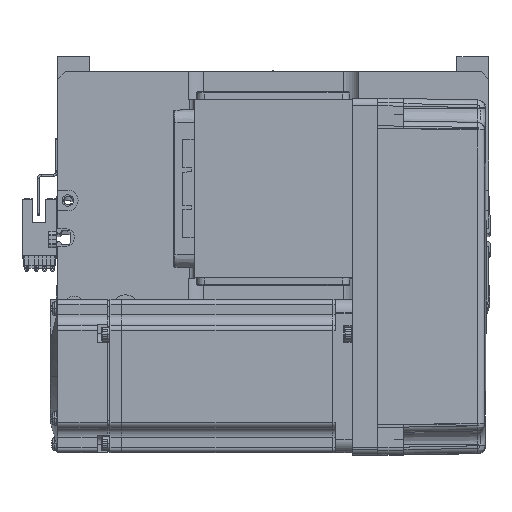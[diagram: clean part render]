
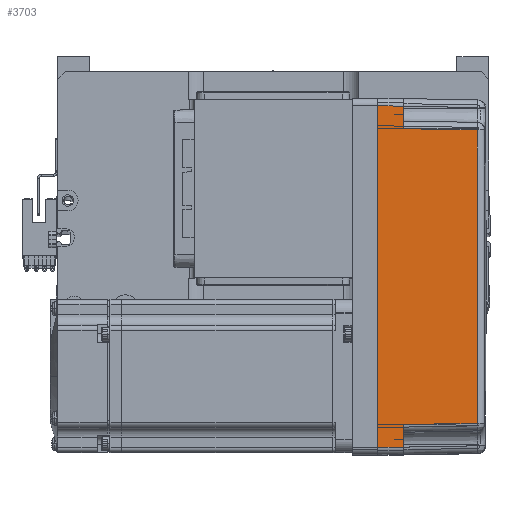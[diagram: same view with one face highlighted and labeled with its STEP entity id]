
A CAD part, top view. The second image highlights one B-rep face of the part: STEP entity #3703.
In plain terms, the highlighted planar face has unit normal (0.018, 0, 1) as drawn and (0, 1, 0.017) by its records, which use the part's own axes.
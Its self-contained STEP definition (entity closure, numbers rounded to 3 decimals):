
#63 = DIRECTION ( 'NONE',  ( 0., -0.017, 1. ) ) ;
#259 = LINE ( 'NONE', #24972, #37089 ) ;
#307 = LINE ( 'NONE', #20006, #10786 ) ;
#1778 = EDGE_CURVE ( 'NONE', #52588, #31941, #32400, .T. ) ;
#2355 = ORIENTED_EDGE ( 'NONE', *, *, #12900, .T. ) ;
#2361 = VERTEX_POINT ( 'NONE', #44504 ) ;
#2836 = CARTESIAN_POINT ( 'NONE',  ( 67.001, 36.001, -0.052 ) ) ;
#3703 = ADVANCED_FACE ( 'NONE', ( #27694 ), #45306, .T. ) ;
#3819 = VECTOR ( 'NONE', #51170, 1000. ) ;
#5236 = CARTESIAN_POINT ( 'NONE',  ( 67., 36., 0. ) ) ;
#6264 = DIRECTION ( 'NONE',  ( 0., 1., 0.017 ) ) ;
#7173 = DIRECTION ( 'NONE',  ( 1., 0., 0. ) ) ;
#7366 = LINE ( 'NONE', #23919, #42029 ) ;
#7481 = ORIENTED_EDGE ( 'NONE', *, *, #32286, .F. ) ;
#7557 = ORIENTED_EDGE ( 'NONE', *, *, #61539, .T. ) ;
#7568 = LINE ( 'NONE', #32697, #54981 ) ;
#9189 = ORIENTED_EDGE ( 'NONE', *, *, #19121, .T. ) ;
#10786 = VECTOR ( 'NONE', #34291, 1000. ) ;
#11330 = LINE ( 'NONE', #41023, #13557 ) ;
#12315 = ORIENTED_EDGE ( 'NONE', *, *, #1778, .F. ) ;
#12900 = EDGE_CURVE ( 'NONE', #24464, #13473, #54268, .T. ) ;
#13451 = CARTESIAN_POINT ( 'NONE',  ( 57.495, 35.32, 38.985 ) ) ;
#13473 = VERTEX_POINT ( 'NONE', #42990 ) ;
#13557 = VECTOR ( 'NONE', #7173, 1000. ) ;
#14674 = ORIENTED_EDGE ( 'NONE', *, *, #32048, .T. ) ;
#19121 = EDGE_CURVE ( 'NONE', #2361, #51139, #7366, .T. ) ;
#20006 = CARTESIAN_POINT ( 'NONE',  ( 70., 35.825, 10. ) ) ;
#21754 = VERTEX_POINT ( 'NONE', #24251 ) ;
#23155 = CARTESIAN_POINT ( 'NONE',  ( 19.165, 35.316, 39.181 ) ) ;
#23524 = DIRECTION ( 'NONE',  ( 1., 0., 0. ) ) ;
#23673 = LINE ( 'NONE', #39341, #40920 ) ;
#23919 = CARTESIAN_POINT ( 'NONE',  ( 70., 35.825, 10. ) ) ;
#24251 = CARTESIAN_POINT ( 'NONE',  ( 58., 35.825, 10. ) ) ;
#24464 = VERTEX_POINT ( 'NONE', #57172 ) ;
#24972 = CARTESIAN_POINT ( 'NONE',  ( -67., 36., 0. ) ) ;
#25054 = DIRECTION ( 'NONE',  ( 0.017, 0.017, -1. ) ) ;
#27694 = FACE_OUTER_BOUND ( 'NONE', #57545, .T. ) ;
#29997 = AXIS2_PLACEMENT_3D ( 'NONE', #49543, #6264, #63 ) ;
#31100 = CARTESIAN_POINT ( 'NONE',  ( -58., 35.825, 10. ) ) ;
#31491 = ORIENTED_EDGE ( 'NONE', *, *, #55959, .T. ) ;
#31941 = VERTEX_POINT ( 'NONE', #51179 ) ;
#32048 = EDGE_CURVE ( 'NONE', #51139, #24464, #7568, .T. ) ;
#32286 = EDGE_CURVE ( 'NONE', #36880, #52588, #11330, .T. ) ;
#32400 = LINE ( 'NONE', #2836, #3819 ) ;
#32697 = CARTESIAN_POINT ( 'NONE',  ( -58., 35.825, 10. ) ) ;
#33432 = ORIENTED_EDGE ( 'NONE', *, *, #62025, .T. ) ;
#34291 = DIRECTION ( 'NONE',  ( 1., 0., 0. ) ) ;
#36880 = VERTEX_POINT ( 'NONE', #37314 ) ;
#37089 = VECTOR ( 'NONE', #58632, 1000. ) ;
#37314 = CARTESIAN_POINT ( 'NONE',  ( -67., 36., 0. ) ) ;
#37733 = DIRECTION ( 'NONE',  ( 0.017, -0.017, 1. ) ) ;
#38459 = CARTESIAN_POINT ( 'NONE',  ( -19.165, 35.316, 39.181 ) ) ;
#39341 = CARTESIAN_POINT ( 'NONE',  ( 57.495, 35.32, 38.985 ) ) ;
#40920 = VECTOR ( 'NONE', #25054, 1000. ) ;
#41023 = CARTESIAN_POINT ( 'NONE',  ( 0., 36., 0. ) ) ;
#42029 = VECTOR ( 'NONE', #23524, 1000. ) ;
#42990 = CARTESIAN_POINT ( 'NONE',  ( 57.495, 35.32, 38.985 ) ) ;
#44504 = CARTESIAN_POINT ( 'NONE',  ( -66.826, 35.825, 10. ) ) ;
#45306 = PLANE ( 'NONE',  #29997 ) ;
#47069 = CARTESIAN_POINT ( 'NONE',  ( -57.495, 35.32, 38.985 ) ) ;
#49543 = CARTESIAN_POINT ( 'NONE',  ( 70., 36., 0. ) ) ;
#51139 = VERTEX_POINT ( 'NONE', #31100 ) ;
#51170 = DIRECTION ( 'NONE',  ( -0.017, -0.017, 1. ) ) ;
#51179 = CARTESIAN_POINT ( 'NONE',  ( 66.826, 35.825, 10. ) ) ;
#52588 = VERTEX_POINT ( 'NONE', #5236 ) ;
#54268 = B_SPLINE_CURVE_WITH_KNOTS ( 'NONE', 3,
 ( #47069, #38459, #23155, #13451 ),
 .UNSPECIFIED., .F., .F.,
 ( 4, 4 ),
 ( 0., 1. ),
 .UNSPECIFIED. ) ;
#54981 = VECTOR ( 'NONE', #37733, 1000. ) ;
#55959 = EDGE_CURVE ( 'NONE', #21754, #31941, #307, .T. ) ;
#57172 = CARTESIAN_POINT ( 'NONE',  ( -57.495, 35.32, 38.985 ) ) ;
#57545 = EDGE_LOOP ( 'NONE', ( #33432, #9189, #14674, #2355, #7557, #31491, #12315, #7481 ) ) ;
#58632 = DIRECTION ( 'NONE',  ( 0.017, -0.017, 1. ) ) ;
#61539 = EDGE_CURVE ( 'NONE', #13473, #21754, #23673, .T. ) ;
#62025 = EDGE_CURVE ( 'NONE', #36880, #2361, #259, .T. ) ;
